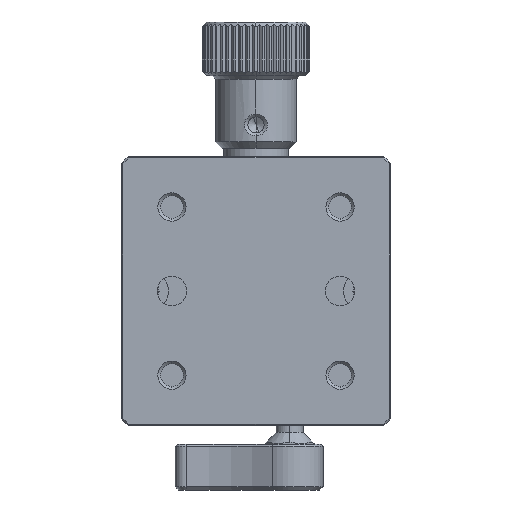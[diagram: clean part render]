
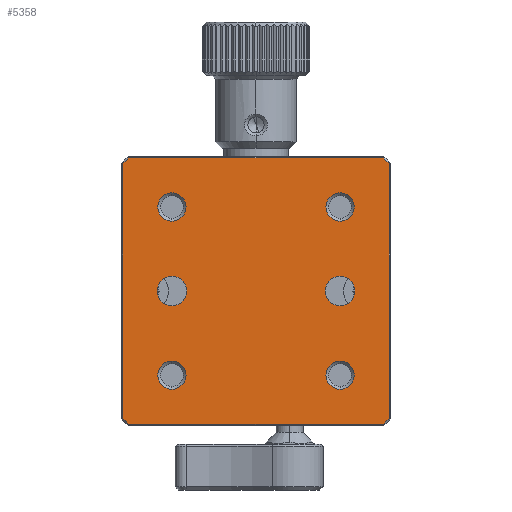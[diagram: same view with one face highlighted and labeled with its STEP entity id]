
A CAD part, front view. The second image highlights one B-rep face of the part: STEP entity #5358.
In plain terms, the highlighted planar face has unit normal (0, -1, 0).
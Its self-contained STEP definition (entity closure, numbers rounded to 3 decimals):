
#1=DIRECTION('',(0.707,0.,-0.707));
#2=VECTOR('',#1,1.249);
#3=CARTESIAN_POINT('',(-19.8,-22.,-18.917));
#4=LINE('',#3,#2);
#5=DIRECTION('',(0.,0.,-1.));
#6=VECTOR('',#5,37.834);
#7=CARTESIAN_POINT('',(-19.8,-22.,18.917));
#8=LINE('',#7,#6);
#9=DIRECTION('',(-0.707,0.,-0.707));
#10=VECTOR('',#9,1.249);
#11=CARTESIAN_POINT('',(-18.917,-22.,19.8));
#12=LINE('',#11,#10);
#13=DIRECTION('',(-1.,0.,0.));
#14=VECTOR('',#13,37.834);
#15=CARTESIAN_POINT('',(18.917,-22.,19.8));
#16=LINE('',#15,#14);
#17=DIRECTION('',(-0.707,0.,0.707));
#18=VECTOR('',#17,1.249);
#19=CARTESIAN_POINT('',(19.8,-22.,18.917));
#20=LINE('',#19,#18);
#21=DIRECTION('',(0.,0.,1.));
#22=VECTOR('',#21,37.834);
#23=CARTESIAN_POINT('',(19.8,-22.,-18.917));
#24=LINE('',#23,#22);
#25=DIRECTION('',(0.707,0.,0.707));
#26=VECTOR('',#25,1.249);
#27=CARTESIAN_POINT('',(18.917,-22.,-19.8));
#28=LINE('',#27,#26);
#29=DIRECTION('',(1.,0.,0.));
#30=VECTOR('',#29,37.834);
#31=CARTESIAN_POINT('',(-18.917,-22.,-19.8));
#32=LINE('',#31,#30);
#33=CARTESIAN_POINT('',(-12.5,-22.,12.5));
#34=DIRECTION('',(0.,1.,0.));
#35=DIRECTION('',(-1.,0.,0.));
#36=AXIS2_PLACEMENT_3D('',#33,#34,#35);
#38=CARTESIAN_POINT('',(-12.5,-22.,12.5));
#39=DIRECTION('',(0.,1.,0.));
#40=DIRECTION('',(1.,0.,0.));
#41=AXIS2_PLACEMENT_3D('',#38,#39,#40);
#43=CARTESIAN_POINT('',(12.5,-22.,12.5));
#44=DIRECTION('',(0.,1.,0.));
#45=DIRECTION('',(-1.,0.,0.));
#46=AXIS2_PLACEMENT_3D('',#43,#44,#45);
#48=CARTESIAN_POINT('',(12.5,-22.,12.5));
#49=DIRECTION('',(0.,1.,0.));
#50=DIRECTION('',(1.,0.,0.));
#51=AXIS2_PLACEMENT_3D('',#48,#49,#50);
#53=CARTESIAN_POINT('',(12.5,-22.,-12.5));
#54=DIRECTION('',(0.,1.,0.));
#55=DIRECTION('',(-1.,0.,0.));
#56=AXIS2_PLACEMENT_3D('',#53,#54,#55);
#58=CARTESIAN_POINT('',(12.5,-22.,-12.5));
#59=DIRECTION('',(0.,1.,0.));
#60=DIRECTION('',(1.,0.,0.));
#61=AXIS2_PLACEMENT_3D('',#58,#59,#60);
#63=CARTESIAN_POINT('',(-12.5,-22.,-12.5));
#64=DIRECTION('',(0.,1.,0.));
#65=DIRECTION('',(-1.,0.,0.));
#66=AXIS2_PLACEMENT_3D('',#63,#64,#65);
#68=CARTESIAN_POINT('',(-12.5,-22.,-12.5));
#69=DIRECTION('',(0.,1.,0.));
#70=DIRECTION('',(1.,0.,0.));
#71=AXIS2_PLACEMENT_3D('',#68,#69,#70);
#73=CARTESIAN_POINT('',(0.,-22.,-12.5));
#74=DIRECTION('',(0.,1.,0.));
#75=DIRECTION('',(1.,0.,0.));
#76=AXIS2_PLACEMENT_3D('',#73,#74,#75);
#78=CARTESIAN_POINT('',(0.,-22.,-12.5));
#79=DIRECTION('',(0.,1.,0.));
#80=DIRECTION('',(-1.,0.,0.));
#81=AXIS2_PLACEMENT_3D('',#78,#79,#80);
#83=CARTESIAN_POINT('',(0.,-22.,12.5));
#84=DIRECTION('',(0.,1.,0.));
#85=DIRECTION('',(1.,0.,0.));
#86=AXIS2_PLACEMENT_3D('',#83,#84,#85);
#88=CARTESIAN_POINT('',(0.,-22.,12.5));
#89=DIRECTION('',(0.,1.,0.));
#90=DIRECTION('',(-1.,0.,0.));
#91=AXIS2_PLACEMENT_3D('',#88,#89,#90);
#4021=CARTESIAN_POINT('',(-19.8,-22.,-18.917));
#4022=CARTESIAN_POINT('',(-18.917,-22.,-19.8));
#4023=VERTEX_POINT('',#4021);
#4024=VERTEX_POINT('',#4022);
#4031=CARTESIAN_POINT('',(18.917,-22.,-19.8));
#4032=VERTEX_POINT('',#4031);
#4033=CARTESIAN_POINT('',(19.8,-22.,-18.917));
#4034=VERTEX_POINT('',#4033);
#4039=CARTESIAN_POINT('',(19.8,-22.,18.917));
#4040=VERTEX_POINT('',#4039);
#4041=CARTESIAN_POINT('',(18.917,-22.,19.8));
#4042=VERTEX_POINT('',#4041);
#4047=CARTESIAN_POINT('',(-18.917,-22.,19.8));
#4048=VERTEX_POINT('',#4047);
#4051=CARTESIAN_POINT('',(-19.8,-22.,18.917));
#4052=VERTEX_POINT('',#4051);
#4073=CARTESIAN_POINT('',(-14.6,-22.,12.5));
#4074=CARTESIAN_POINT('',(-10.4,-22.,12.5));
#4075=VERTEX_POINT('',#4073);
#4076=VERTEX_POINT('',#4074);
#4081=CARTESIAN_POINT('',(10.4,-22.,12.5));
#4082=CARTESIAN_POINT('',(14.6,-22.,12.5));
#4083=VERTEX_POINT('',#4081);
#4084=VERTEX_POINT('',#4082);
#4089=CARTESIAN_POINT('',(10.4,-22.,-12.5));
#4090=CARTESIAN_POINT('',(14.6,-22.,-12.5));
#4091=VERTEX_POINT('',#4089);
#4092=VERTEX_POINT('',#4090);
#4097=CARTESIAN_POINT('',(-14.6,-22.,-12.5));
#4098=CARTESIAN_POINT('',(-10.4,-22.,-12.5));
#4099=VERTEX_POINT('',#4097);
#4100=VERTEX_POINT('',#4098);
#4295=CARTESIAN_POINT('',(2.2,-22.,-12.5));
#4296=CARTESIAN_POINT('',(-2.2,-22.,-12.5));
#4297=VERTEX_POINT('',#4295);
#4298=VERTEX_POINT('',#4296);
#4299=CARTESIAN_POINT('',(2.2,-22.,12.5));
#4300=CARTESIAN_POINT('',(-2.2,-22.,12.5));
#4301=VERTEX_POINT('',#4299);
#4302=VERTEX_POINT('',#4300);
#5299=CARTESIAN_POINT('',(0.,-22.,0.));
#5300=DIRECTION('',(0.,1.,0.));
#5301=DIRECTION('',(1.,0.,0.));
#5302=AXIS2_PLACEMENT_3D('',#5299,#5300,#5301);
#5303=PLANE('',#5302);
#5305=ORIENTED_EDGE('',*,*,#5304,.F.);
#5307=ORIENTED_EDGE('',*,*,#5306,.F.);
#5309=ORIENTED_EDGE('',*,*,#5308,.F.);
#5311=ORIENTED_EDGE('',*,*,#5310,.F.);
#5313=ORIENTED_EDGE('',*,*,#5312,.F.);
#5315=ORIENTED_EDGE('',*,*,#5314,.F.);
#5317=ORIENTED_EDGE('',*,*,#5316,.F.);
#5319=ORIENTED_EDGE('',*,*,#5318,.F.);
#5320=EDGE_LOOP('',(#5305,#5307,#5309,#5311,#5313,#5315,#5317,#5319));
#5321=FACE_OUTER_BOUND('',#5320,.F.);
#5323=ORIENTED_EDGE('',*,*,#5322,.F.);
#5325=ORIENTED_EDGE('',*,*,#5324,.F.);
#5326=EDGE_LOOP('',(#5323,#5325));
#5327=FACE_BOUND('',#5326,.F.);
#5329=ORIENTED_EDGE('',*,*,#5328,.F.);
#5331=ORIENTED_EDGE('',*,*,#5330,.F.);
#5332=EDGE_LOOP('',(#5329,#5331));
#5333=FACE_BOUND('',#5332,.F.);
#5335=ORIENTED_EDGE('',*,*,#5334,.F.);
#5337=ORIENTED_EDGE('',*,*,#5336,.F.);
#5338=EDGE_LOOP('',(#5335,#5337));
#5339=FACE_BOUND('',#5338,.F.);
#5341=ORIENTED_EDGE('',*,*,#5340,.F.);
#5343=ORIENTED_EDGE('',*,*,#5342,.F.);
#5344=EDGE_LOOP('',(#5341,#5343));
#5345=FACE_BOUND('',#5344,.F.);
#5347=ORIENTED_EDGE('',*,*,#5346,.F.);
#5349=ORIENTED_EDGE('',*,*,#5348,.F.);
#5350=EDGE_LOOP('',(#5347,#5349));
#5351=FACE_BOUND('',#5350,.F.);
#5353=ORIENTED_EDGE('',*,*,#5352,.F.);
#5355=ORIENTED_EDGE('',*,*,#5354,.F.);
#5356=EDGE_LOOP('',(#5353,#5355));
#5357=FACE_BOUND('',#5356,.F.);
#5358=ADVANCED_FACE('',(#5321,#5327,#5333,#5339,#5345,#5351,#5357),#5303,.F.);
#37=CIRCLE('',#36,2.1);
#42=CIRCLE('',#41,2.1);
#47=CIRCLE('',#46,2.1);
#52=CIRCLE('',#51,2.1);
#57=CIRCLE('',#56,2.1);
#62=CIRCLE('',#61,2.1);
#67=CIRCLE('',#66,2.1);
#72=CIRCLE('',#71,2.1);
#77=CIRCLE('',#76,2.2);
#82=CIRCLE('',#81,2.2);
#87=CIRCLE('',#86,2.2);
#92=CIRCLE('',#91,2.2);
#5304=EDGE_CURVE('',#4023,#4024,#4,.T.);
#5306=EDGE_CURVE('',#4052,#4023,#8,.T.);
#5308=EDGE_CURVE('',#4048,#4052,#12,.T.);
#5310=EDGE_CURVE('',#4042,#4048,#16,.T.);
#5312=EDGE_CURVE('',#4040,#4042,#20,.T.);
#5314=EDGE_CURVE('',#4034,#4040,#24,.T.);
#5316=EDGE_CURVE('',#4032,#4034,#28,.T.);
#5318=EDGE_CURVE('',#4024,#4032,#32,.T.);
#5322=EDGE_CURVE('',#4075,#4076,#37,.T.);
#5324=EDGE_CURVE('',#4076,#4075,#42,.T.);
#5328=EDGE_CURVE('',#4083,#4084,#47,.T.);
#5330=EDGE_CURVE('',#4084,#4083,#52,.T.);
#5334=EDGE_CURVE('',#4091,#4092,#57,.T.);
#5336=EDGE_CURVE('',#4092,#4091,#62,.T.);
#5340=EDGE_CURVE('',#4099,#4100,#67,.T.);
#5342=EDGE_CURVE('',#4100,#4099,#72,.T.);
#5346=EDGE_CURVE('',#4297,#4298,#77,.T.);
#5348=EDGE_CURVE('',#4298,#4297,#82,.T.);
#5352=EDGE_CURVE('',#4301,#4302,#87,.T.);
#5354=EDGE_CURVE('',#4302,#4301,#92,.T.);
